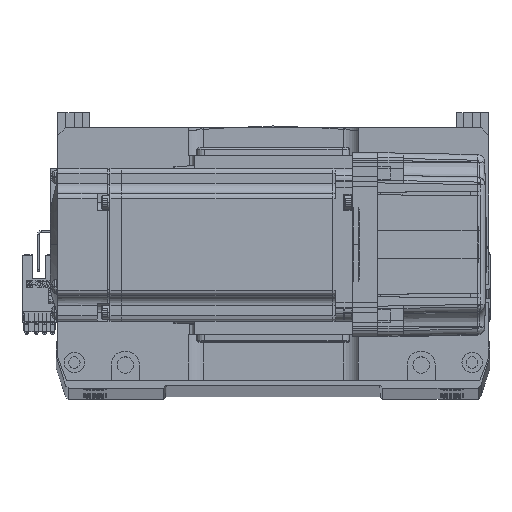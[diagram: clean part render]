
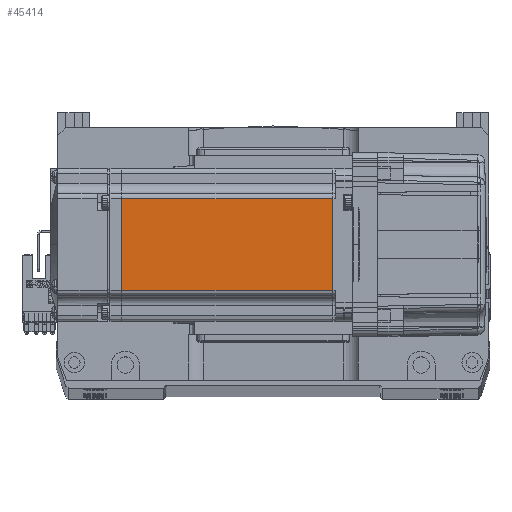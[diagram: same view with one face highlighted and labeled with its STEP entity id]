
A CAD part, top view. The second image highlights one B-rep face of the part: STEP entity #45414.
In plain terms, the highlighted planar face has unit normal (0, 0, 1).
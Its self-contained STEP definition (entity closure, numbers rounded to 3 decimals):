
#1411 = CARTESIAN_POINT ( 'NONE',  ( -7.75, 0., 30. ) ) ;
#2784 = DIRECTION ( 'NONE',  ( 0., 0., 1. ) ) ;
#2791 = DIRECTION ( 'NONE',  ( 0., -1., 0. ) ) ;
#4136 = FACE_OUTER_BOUND ( 'NONE', #30246, .T. ) ;
#5576 = VECTOR ( 'NONE', #59600, 1000. ) ;
#7234 = LINE ( 'NONE', #32801, #5576 ) ;
#8650 = CARTESIAN_POINT ( 'NONE',  ( -90.45, 0., 30. ) ) ;
#11703 = DIRECTION ( 'NONE',  ( 0., -1., 0. ) ) ;
#13352 = ORIENTED_EDGE ( 'NONE', *, *, #61207, .T. ) ;
#13517 = LINE ( 'NONE', #1411, #65366 ) ;
#14569 = CARTESIAN_POINT ( 'NONE',  ( -7.75, 18., 30. ) ) ;
#16608 = CARTESIAN_POINT ( 'NONE',  ( -90.45, 18., 30. ) ) ;
#28046 = VECTOR ( 'NONE', #2791, 1000. ) ;
#28130 = ORIENTED_EDGE ( 'NONE', *, *, #37130, .F. ) ;
#28256 = LINE ( 'NONE', #33302, #69250 ) ;
#29419 = EDGE_CURVE ( 'NONE', #46573, #38835, #13517, .T. ) ;
#29490 = CARTESIAN_POINT ( 'NONE',  ( -6.5, -25., 30. ) ) ;
#30246 = EDGE_LOOP ( 'NONE', ( #55308, #13352, #61594, #28130 ) ) ;
#32801 = CARTESIAN_POINT ( 'NONE',  ( -6.5, 18., 30. ) ) ;
#33302 = CARTESIAN_POINT ( 'NONE',  ( -6.5, -18., 30. ) ) ;
#37130 = EDGE_CURVE ( 'NONE', #38835, #52882, #28256, .T. ) ;
#38652 = DIRECTION ( 'NONE',  ( -1., 0., 0. ) ) ;
#38835 = VERTEX_POINT ( 'NONE', #44781 ) ;
#40230 = DIRECTION ( 'NONE',  ( 1., 0., 0. ) ) ;
#42289 = LINE ( 'NONE', #8650, #28046 ) ;
#44781 = CARTESIAN_POINT ( 'NONE',  ( -7.75, -18., 30. ) ) ;
#45414 = ADVANCED_FACE ( 'NONE', ( #4136 ), #56046, .T. ) ;
#46573 = VERTEX_POINT ( 'NONE', #14569 ) ;
#49678 = EDGE_CURVE ( 'NONE', #59598, #52882, #42289, .T. ) ;
#52882 = VERTEX_POINT ( 'NONE', #61389 ) ;
#55308 = ORIENTED_EDGE ( 'NONE', *, *, #29419, .F. ) ;
#56046 = PLANE ( 'NONE',  #62853 ) ;
#59598 = VERTEX_POINT ( 'NONE', #16608 ) ;
#59600 = DIRECTION ( 'NONE',  ( -1., 0., 0. ) ) ;
#61207 = EDGE_CURVE ( 'NONE', #46573, #59598, #7234, .T. ) ;
#61389 = CARTESIAN_POINT ( 'NONE',  ( -90.45, -18., 30. ) ) ;
#61594 = ORIENTED_EDGE ( 'NONE', *, *, #49678, .T. ) ;
#62853 = AXIS2_PLACEMENT_3D ( 'NONE', #29490, #2784, #40230 ) ;
#65366 = VECTOR ( 'NONE', #11703, 1000. ) ;
#69250 = VECTOR ( 'NONE', #38652, 1000. ) ;
